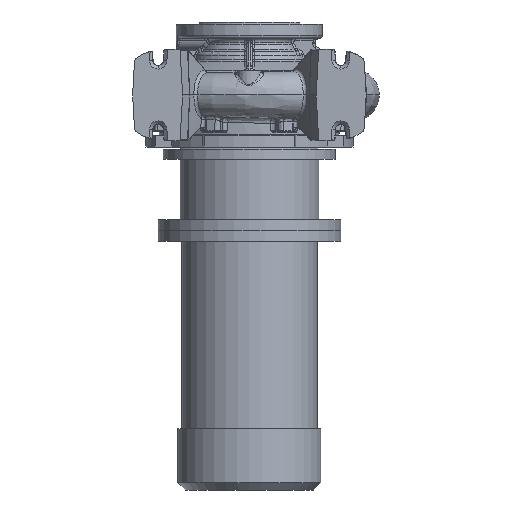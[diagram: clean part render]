
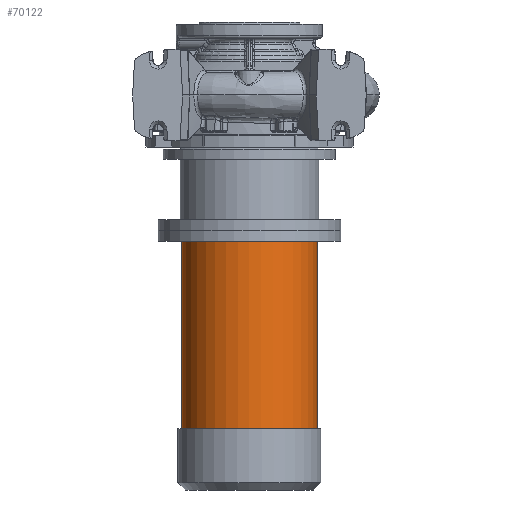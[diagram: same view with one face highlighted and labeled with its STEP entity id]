
A CAD part, front view. The second image highlights one B-rep face of the part: STEP entity #70122.
In plain terms, the highlighted cylindrical face has radius 93 mm (diameter 186 mm), a partial arc.
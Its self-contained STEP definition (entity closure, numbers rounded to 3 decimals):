
#2363 = DIRECTION ( 'NONE',  ( 0., 0., -1. ) ) ;
#5465 = CARTESIAN_POINT ( 'NONE',  ( 93., 0., -457.3 ) ) ;
#5495 = AXIS2_PLACEMENT_3D ( 'NONE', #20686, #43206, #9755 ) ;
#9755 = DIRECTION ( 'NONE',  ( -1., 0., 0. ) ) ;
#12845 = ORIENTED_EDGE ( 'NONE', *, *, #23440, .T. ) ;
#13725 = DIRECTION ( 'NONE',  ( 0., 0., -1. ) ) ;
#14531 = CARTESIAN_POINT ( 'NONE',  ( -93., 0., -457.3 ) ) ;
#14994 = LINE ( 'NONE', #60420, #47078 ) ;
#15443 = ORIENTED_EDGE ( 'NONE', *, *, #15580, .T. ) ;
#15580 = EDGE_CURVE ( 'NONE', #49032, #51051, #14994, .T. ) ;
#16108 = ORIENTED_EDGE ( 'NONE', *, *, #22763, .F. ) ;
#20686 = CARTESIAN_POINT ( 'NONE',  ( 0., 0., -457.3 ) ) ;
#22763 = EDGE_CURVE ( 'NONE', #46180, #51051, #60518, .T. ) ;
#23440 = EDGE_CURVE ( 'NONE', #40777, #49032, #61403, .T. ) ;
#23980 = DIRECTION ( 'NONE',  ( -1., 0., 0. ) ) ;
#24475 = AXIS2_PLACEMENT_3D ( 'NONE', #41416, #13725, #34905 ) ;
#34507 = ORIENTED_EDGE ( 'NONE', *, *, #49684, .F. ) ;
#34905 = DIRECTION ( 'NONE',  ( -1., 0., 0. ) ) ;
#35057 = CARTESIAN_POINT ( 'NONE',  ( -93., 0., -200.3 ) ) ;
#40062 = VECTOR ( 'NONE', #61731, 1000. ) ;
#40777 = VERTEX_POINT ( 'NONE', #49860 ) ;
#41016 = EDGE_LOOP ( 'NONE', ( #34507, #12845, #15443, #16108 ) ) ;
#41416 = CARTESIAN_POINT ( 'NONE',  ( 0., 0., -200.3 ) ) ;
#41520 = FACE_OUTER_BOUND ( 'NONE', #41016, .T. ) ;
#41780 = LINE ( 'NONE', #56188, #40062 ) ;
#43206 = DIRECTION ( 'NONE',  ( 0., 0., -1. ) ) ;
#46180 = VERTEX_POINT ( 'NONE', #5465 ) ;
#47078 = VECTOR ( 'NONE', #49772, 1000. ) ;
#49032 = VERTEX_POINT ( 'NONE', #35057 ) ;
#49684 = EDGE_CURVE ( 'NONE', #40777, #46180, #41780, .T. ) ;
#49772 = DIRECTION ( 'NONE',  ( 0., 0., -1. ) ) ;
#49860 = CARTESIAN_POINT ( 'NONE',  ( 93., 0., -200.3 ) ) ;
#51051 = VERTEX_POINT ( 'NONE', #14531 ) ;
#52040 = CARTESIAN_POINT ( 'NONE',  ( 0., 0., -541.3 ) ) ;
#56092 = AXIS2_PLACEMENT_3D ( 'NONE', #52040, #2363, #23980 ) ;
#56188 = CARTESIAN_POINT ( 'NONE',  ( 93., 0., -541.3 ) ) ;
#60420 = CARTESIAN_POINT ( 'NONE',  ( -93., 0., -541.3 ) ) ;
#60518 = CIRCLE ( 'NONE', #5495, 93. ) ;
#61403 = CIRCLE ( 'NONE', #24475, 93. ) ;
#61731 = DIRECTION ( 'NONE',  ( 0., 0., -1. ) ) ;
#62212 = CYLINDRICAL_SURFACE ( 'NONE', #56092, 93. ) ;
#70122 = ADVANCED_FACE ( 'NONE', ( #41520 ), #62212, .T. ) ;
